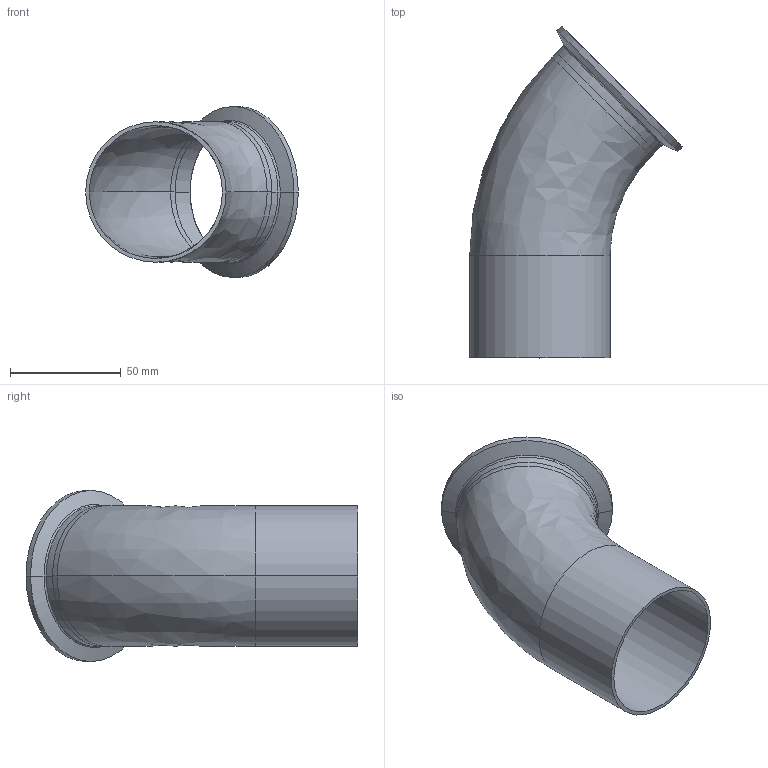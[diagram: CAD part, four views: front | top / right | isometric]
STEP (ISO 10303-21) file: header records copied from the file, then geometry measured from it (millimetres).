
FILE_DESCRIPTION (( 'STEP AP214' ), '1' );
FILE_NAME ('TE2KC6L2.5-...STEP', '2016-05-22T06:31:22', ( 'eran' ), ( '' ), 'SwSTEP 2.0', 'SolidWorks 2016', '' );
FILE_SCHEMA (( 'AUTOMOTIVE_DESIGN' ));
Length unit declared in the file: millimetre
Products named in the file (1): TE2KC6L2.5-..
Bounding box: 96.17 x 150.12 x 77.39 mm (x, y, z)
Volume: 48936.3 mm3; surface area: 56209.6 mm2
Topology: 2 solids, 2 shells, 39 faces, 92 edges, 58 vertices
Faces by surface type: bspline 14, cylinder 14, cone 6, plane 5
Entity records: 1801 total; most frequent: CARTESIAN_POINT 858, DIRECTION 204, ORIENTED_EDGE 184, EDGE_CURVE 92, AXIS2_PLACEMENT_3D 92, CIRCLE 66, VERTEX_POINT 58, EDGE_LOOP 44
